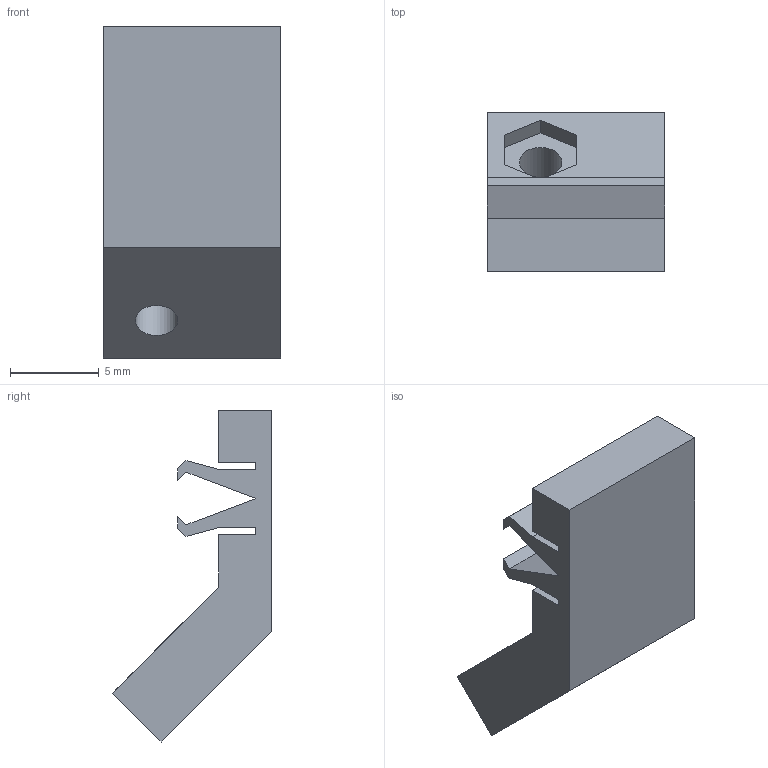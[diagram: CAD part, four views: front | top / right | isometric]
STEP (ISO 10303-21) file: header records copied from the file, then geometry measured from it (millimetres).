
FILE_DESCRIPTION(/* description */ (''),/* implementation_level */ '2;1');
FILE_NAME(/* name */ 'C:/Users/priba/Downloads/Brick1x1l3a45OppPar.step',/* time_stamp */ '2020-10-04T19:49:54+02:00',/* author */ (''),/* organization */ (''),/* preprocessor_version */ 'ST-DEVELOPER v18.1',/* originating_system */ 'Autodesk Translation Framework v9.3.0.1241',/* authorisation */ '');
FILE_SCHEMA (('AUTOMOTIVE_DESIGN { 1 0 10303 214 3 1 1 }'));
Length unit declared in the file: millimetre
Products named in the file (1): Brick1x1l3a45OppPar
Bounding box: 10 x 9 x 18.75 mm (x, y, z)
Volume: 646.7 mm3; surface area: 841.7 mm2
Topology: 1 solids, 1 shells, 34 faces, 93 edges, 62 vertices
Faces by surface type: plane 33, cylinder 1
Full cylindrical faces by diameter (mm): 2.4 x1
Entity records: 1085 total; most frequent: CARTESIAN_POINT 190, ORIENTED_EDGE 186, DIRECTION 165, EDGE_CURVE 93, LINE 91, VECTOR 91, VERTEX_POINT 62, EDGE_LOOP 37
